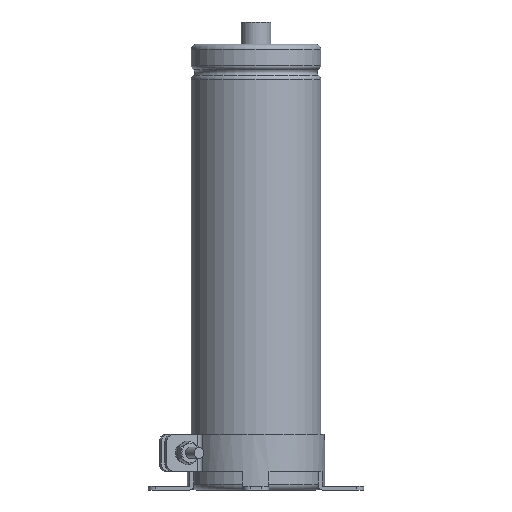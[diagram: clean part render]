
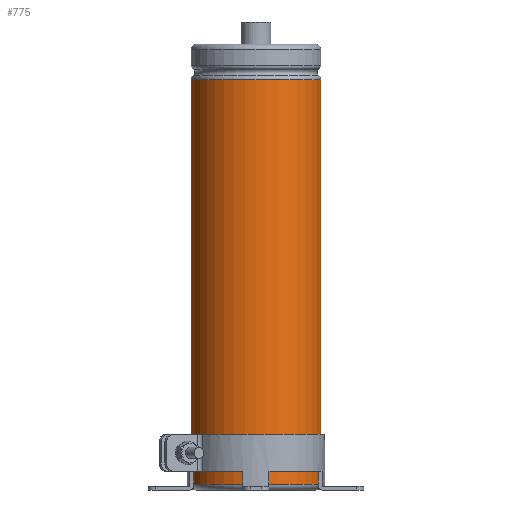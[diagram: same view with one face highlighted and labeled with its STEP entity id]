
A CAD part, front view. The second image highlights one B-rep face of the part: STEP entity #775.
In plain terms, the highlighted cylindrical face has radius 17.5 mm (diameter 35 mm), a partial arc.
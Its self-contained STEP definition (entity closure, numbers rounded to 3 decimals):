
#353=CYLINDRICAL_SURFACE('',#3000,17.5);
#406=LINE('',#4303,#590);
#407=LINE('',#4307,#591);
#590=VECTOR('',#3377,1.);
#591=VECTOR('',#3380,1.);
#775=ADVANCED_FACE('',(#976),#353,.T.);
#976=FACE_OUTER_BOUND('',#1100,.T.);
#1100=EDGE_LOOP('',(#1323,#1324,#1325,#1326));
#1323=ORIENTED_EDGE('',*,*,#2398,.T.);
#1324=ORIENTED_EDGE('',*,*,#2399,.T.);
#1325=ORIENTED_EDGE('',*,*,#2400,.F.);
#1326=ORIENTED_EDGE('',*,*,#2401,.F.);
#2116=VERTEX_POINT('',#4296);
#2118=VERTEX_POINT('',#4300);
#2119=VERTEX_POINT('',#4304);
#2120=VERTEX_POINT('',#4306);
#2398=EDGE_CURVE('',#2116,#2118,#2796,.T.);
#2399=EDGE_CURVE('',#2118,#2119,#406,.T.);
#2400=EDGE_CURVE('',#2120,#2119,#2797,.T.);
#2401=EDGE_CURVE('',#2116,#2120,#407,.T.);
#2796=CIRCLE('',#2997,17.5);
#2797=CIRCLE('',#2999,17.5);
#2997=AXIS2_PLACEMENT_3D('',#4301,#3373,#3374);
#2999=AXIS2_PLACEMENT_3D('',#4305,#3378,#3379);
#3000=AXIS2_PLACEMENT_3D('',#4308,#3381,#3382);
#3373=DIRECTION('',(0.,0.,-1.));
#3374=DIRECTION('',(0.,1.,0.));
#3377=DIRECTION('',(0.,0.,-1.));
#3378=DIRECTION('',(0.,0.,-1.));
#3379=DIRECTION('',(0.,1.,0.));
#3380=DIRECTION('',(0.,0.,-1.));
#3381=DIRECTION('',(0.,0.,-1.));
#3382=DIRECTION('',(0.,1.,0.));
#4296=CARTESIAN_POINT('',(3.937,17.051,110.4));
#4300=CARTESIAN_POINT('',(-3.937,17.051,110.4));
#4301=CARTESIAN_POINT('',(0.,0.,110.4));
#4303=CARTESIAN_POINT('',(-3.937,17.051,110.4));
#4304=CARTESIAN_POINT('',(-3.937,17.051,1.5));
#4305=CARTESIAN_POINT('',(0.,0.,1.5));
#4306=CARTESIAN_POINT('',(3.937,17.051,1.5));
#4307=CARTESIAN_POINT('',(3.937,17.051,110.4));
#4308=CARTESIAN_POINT('',(0.,0.,0.));
